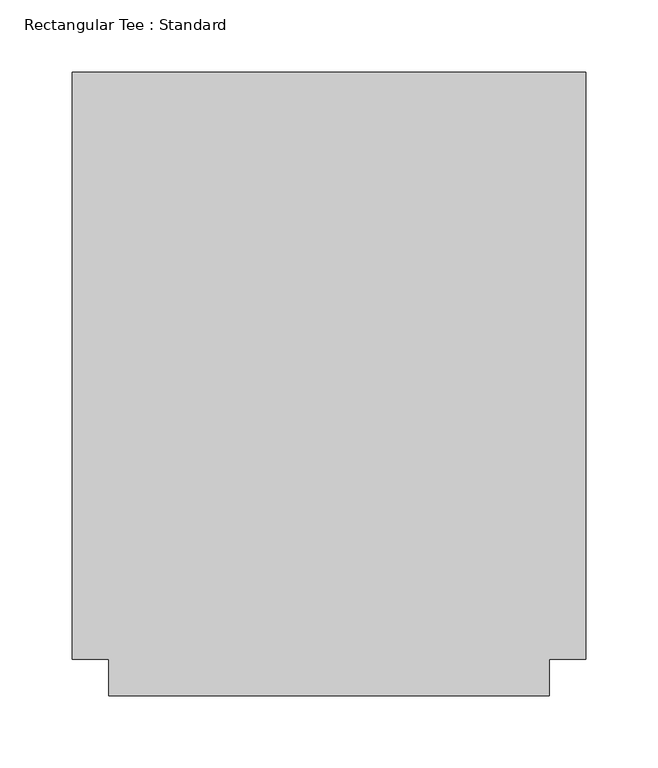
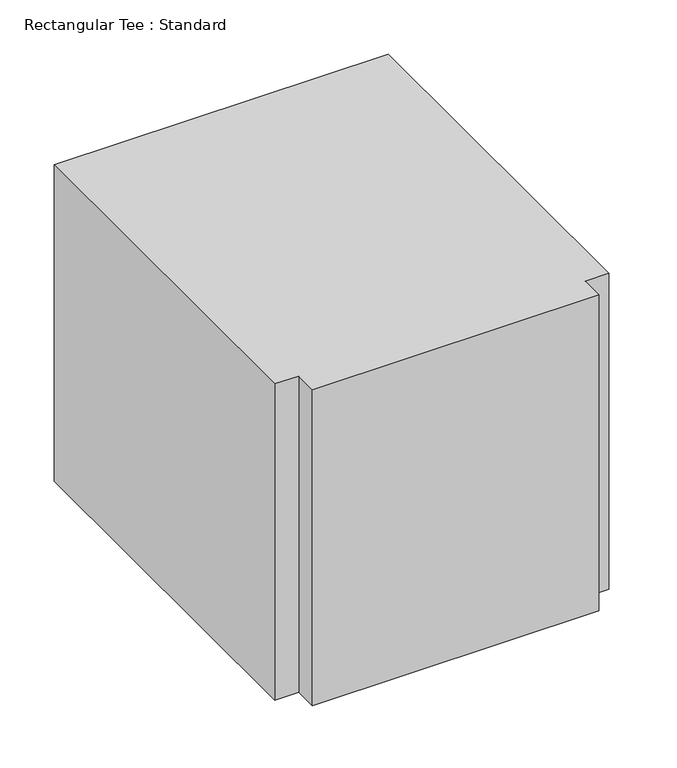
"""IFC4 building model written with IfcOpenShell, lengths in millimetres: duct fitting geometry, Rectangular Tee : Standard."""

from ifc_helpers import new_model, si_unit, frame, origin, place, context, project, spatial, polyline, outline, extrude, source, transform, mapped, element, save


def rectangular_tee_standard_b910b0bc(model_context):
    return source(origin(), model_context, "Body", "SweptSolid", [
        extrude(outline(polyline([(-177.8, -203.2), (-177.8, 203.2), (177.8, 203.2), (177.8, -203.2), (152.4, -203.2), (152.4, -228.6), (-152.4, -228.6), (-152.4, -203.2), (-177.8, -203.2)])), frame((0.0, 0.0, -177.8), z_axis=(0.0, 0.0, 1.0), x_axis=(1.0, 0.0, 0.0)), (0.0, 0.0, 1.0), 355.6),
    ])


if __name__ == "__main__":
    model = new_model("IFC4")
    model_context = context("Model", 3, world=origin())
    ifc_project = project(units=[si_unit("LENGTHUNIT", "METRE", prefix="MILLI")], contexts=[model_context])
    site = spatial("IfcSite", under=ifc_project)
    building = spatial("IfcBuilding", under=site)
    placement = place(None, origin())
    rectangular_tee_standard_shape = rectangular_tee_standard_b910b0bc(model_context)
    element("IfcDuctFitting", 1, ObjectType="Rectangular Tee : Standard", at=placement, inside=building, context=model_context, shape_type="MappedRepresentation", body=[
        mapped(rectangular_tee_standard_shape, transform((0.0, 0.0, 0.0), x_axis=(1.0, 0.0, 0.0), y_axis=(0.0, 1.0, 0.0), z_axis=(0.0, 0.0, 1.0))),
    ])
    save(model, "model.ifc")
